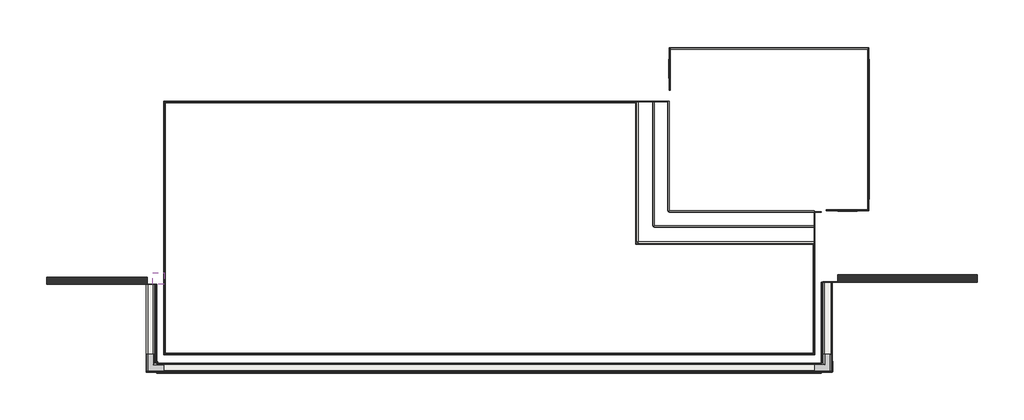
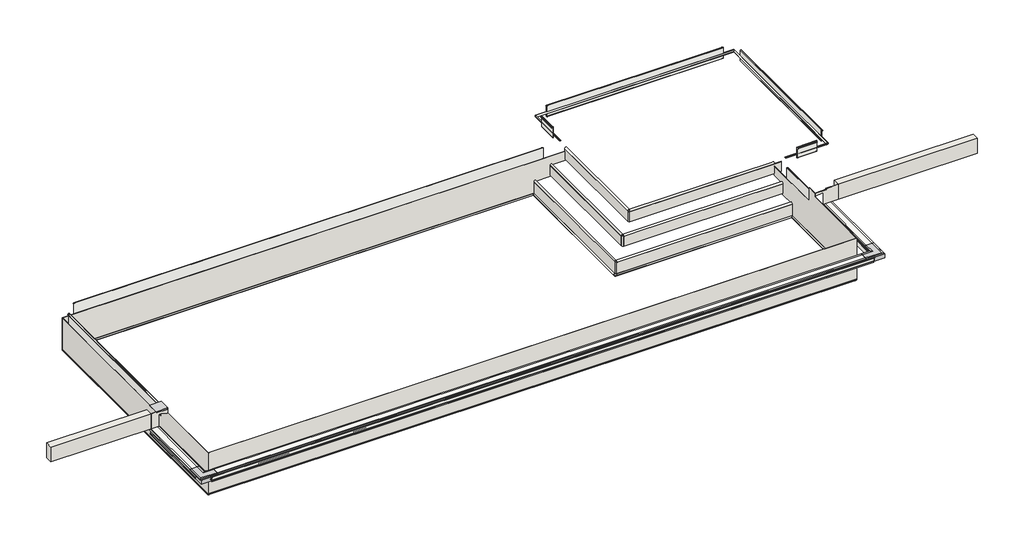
# One storey, incomplete: 32 slabs, 14 walls, 9 proxies.
"""IFC4 building model written with IfcOpenShell, lengths in millimetres."""

from ifc_helpers import new_model, si_unit, frame, origin, place, context, project, spatial, polyline, circle_curve, outline, extrude, faceted_brep, transform, mapped, element, save
from ifc_brep_helpers import plane_surface, revolved_surface, advanced_brep
from components import generic_models_2f38e3b8, generic_models_e9a23e22, generic_models_63c795dd, generic_models_075414a9, bloque_rs_943_f1732a4f, slab_9f0385e0, slab_61d0ff87, slab_1a5e02c1, slab_685f944a, slab_566f5eac, slab_abddf5fc, slab_00de984e, slab_c4abe388, slab_4bab5f5c, slab_e695d669, slab_d2b3e7c7, slab_6e807474, slab_6ea1b4a0, slab_d7a6919b, slab_5e99094c, slab_eb9e3eb8, slab_f8d4f0c7, slab_ee8387c9, slab_8ee4e33a, slab_2114b75f, slab_f5defd6c, slab_10a1814d, slab_2980076c, slab_45b15912, slab_8cf7b7cf, slab_d8ab2755, slab_4138cf42, slab_a32e0d3d, bloque_rs_941_dddf950f, bloque_rs_941_d63500ad, bloque_rs_941_eeaf1ed6

model = new_model("IFC4")

# Units and contexts
model_context = context("Model", 3, world=origin())
ifc_project = project(units=[si_unit("LENGTHUNIT", "METRE", prefix="MILLI")], contexts=[model_context])

# Site, building, storey
site = spatial("IfcSite", under=ifc_project)
building = spatial("IfcBuilding", under=site)
storey = spatial("IfcBuildingStorey", under=building, Name="3_NFondo1P1 -1.50", Elevation=-1500.0)

# Proxies
placement = place(None, origin())
generic_models_shape = generic_models_2f38e3b8(model_context)
element("IfcBuildingElementProxy", 1, Name="ROSA GRES_115 : Pieza 115_Tao_Beige_Liso", ObjectType="ROSA GRES_115 : Pieza 115_Tao_Beige_Liso", at=placement, inside=storey, context=model_context, shape_type="MappedRepresentation", body=[
    mapped(generic_models_shape, transform((15688.1007804, 14665.1035327, -680.0), x_axis=(0.0, -1.0, 0.0), y_axis=(1.0, 0.0, 0.0), z_axis=(0.0, 0.0, 1.0))),
])
element("IfcBuildingElementProxy", 2, Name="ROSA GRES_115 : Pieza 115_Tao_Beige_Liso", ObjectType="ROSA GRES_115 : Pieza 115_Tao_Beige_Liso", at=placement, inside=storey, context=model_context, shape_type="MappedRepresentation", body=[
    mapped(generic_models_shape, transform((15238.1007804, 14215.1035327, -1010.0), x_axis=(0.0, -1.0, 0.0), y_axis=(1.0, 0.0, 0.0), z_axis=(0.0, 0.0, 1.0))),
])
element("IfcBuildingElementProxy", 3, Name="ROSA GRES_115 : Pieza 115_Tao_Beige_Liso", ObjectType="ROSA GRES_115 : Pieza 115_Tao_Beige_Liso", at=placement, inside=storey, context=model_context, shape_type="MappedRepresentation", body=[
    mapped(generic_models_shape, transform((16103.1007804, 15080.1035327, -350.0), x_axis=(0.0, -1.0, 0.0), y_axis=(1.0, 0.0, 0.0), z_axis=(0.0, 0.0, 1.0))),
])
generic_models_2_shape = generic_models_e9a23e22(model_context)
element("IfcBuildingElementProxy", 4, Name="ROSA GRES_116 : Pieza 116_Tao_Beige_Liso", ObjectType="ROSA GRES_116 : Pieza 116_Tao_Beige_Liso", at=placement, inside=storey, context=model_context, shape_type="MappedRepresentation", body=[
    mapped(generic_models_2_shape, transform((15238.1007804, 14214.4871894, -1379.9734111), x_axis=(0.0, -1.0, 0.0), y_axis=(1.0, 0.0, 0.0), z_axis=(0.0, 0.0, 1.0))),
])
generic_models_3_shape = generic_models_63c795dd(model_context)
element("IfcBuildingElementProxy", 5, Name="ROSA GRES_ED6 (largo y profundidad) : Pieza ED6_Tao_Beige_Anti-Slip", ObjectType="ROSA GRES_ED6 (largo y profundidad) : Pieza ED6_Tao_Beige_Anti-Slip", at=placement, inside=storey, context=model_context, shape_type="MappedRepresentation", body=[
    mapped(generic_models_3_shape, transform((2118.6007804, 13037.6035327, 0.0), x_axis=(1.0, 0.0, 0.0), y_axis=(0.0, 1.0, 0.0), z_axis=(0.0, 0.0, 1.0))),
])
generic_models_4_shape = generic_models_075414a9(model_context)
element("IfcBuildingElementProxy", 6, Name="ROSA GRES_245 EC_Colocación en plano : Pieza 245 EC_Tao_Beige_Anti-Slip", ObjectType="ROSA GRES_245 EC_Colocación en plano : Pieza 245 EC_Tao_Beige_Anti-Slip", at=placement, inside=storey, context=model_context, shape_type="MappedRepresentation", body=[
    mapped(generic_models_4_shape, transform((1617.4586718, 10609.6035327, -475.0413492), x_axis=(-1.0, 0.0, 0.0), y_axis=(0.0, -1.0, 0.0), z_axis=(0.0, 0.0, 1.0))),
])
element("IfcBuildingElementProxy", 7, Name="ROSA GRES_245 EC_Colocación en plano : Pieza 245 EC_Tao_Beige_Anti-Slip", ObjectType="ROSA GRES_245 EC_Colocación en plano : Pieza 245 EC_Tao_Beige_Anti-Slip", at=placement, inside=storey, context=model_context, shape_type="MappedRepresentation", body=[
    mapped(generic_models_4_shape, transform((20603.6007804, 10609.6035327, -475.0413492), x_axis=(0.0, -1.0, 0.0), y_axis=(1.0, 0.0, 0.0), z_axis=(0.0, 0.0, 1.0))),
])
bloque_rs_943_shape = bloque_rs_943_f1732a4f(model_context)
element("IfcBuildingElementProxy", 8, Name="ROSA GRES_RS 943 : Bloque RS 943", ObjectType="ROSA GRES_RS 943 : Bloque RS 943", at=placement, inside=storey, context=model_context, shape_type="MappedRepresentation", body=[
    mapped(bloque_rs_943_shape, transform((20604.3277153, 10627.4762625, -605.0227526), x_axis=(0.0, -1.0, 0.0), y_axis=(1.0, 0.0, 0.0), z_axis=(0.0, 0.0, 1.0))),
])
element("IfcBuildingElementProxy", 9, Name="ROSA GRES_RS 943 : Bloque RS 943", ObjectType="ROSA GRES_RS 943 : Bloque RS 943", at=placement, inside=storey, context=model_context, shape_type="MappedRepresentation", body=[
    mapped(bloque_rs_943_shape, transform((1658.4971093, 10627.4762625, -605.0227526), x_axis=(-1.0, 0.0, 0.0), y_axis=(0.0, -1.0, 0.0), z_axis=(0.0, 0.0, 1.0))),
])

# Slabs
slab_shape = slab_9f0385e0(model_context)
element("IfcSlab", 10, ObjectType="ROSA GRES_J62 : Pieza J62_Tao_Beige_Anti-Slip", at=placement, inside=storey, context=model_context, shape_type="MappedRepresentation", body=[
    mapped(slab_shape, transform((2107.3061535, 17787.6035327, -101.4130427), x_axis=(0.0, -1.0, 0.0), y_axis=(0.0, 0.0, -1.0), z_axis=(1.0, 0.0, 0.0))),
])
slab_2_shape = slab_61d0ff87(model_context)
element("IfcSlab", 11, ObjectType="ROSA GRES_J62 : Pieza J62_Tao_Beige_Anti-Slip", at=placement, inside=storey, context=model_context, shape_type="MappedRepresentation", body=[
    mapped(slab_2_shape, transform((2427.4908747, 18105.8981596, -102.7970849), x_axis=(1.0, 0.0, 0.0), y_axis=(0.0, 0.0, 1.0), z_axis=(0.0, -1.0, 0.0))),
])
slab_3_shape = slab_1a5e02c1(model_context)
element("IfcSlab", 12, ObjectType="ROSA GRES_183 : Pieza 183_Tao_Beige_Liso", at=placement, inside=storey, context=model_context, shape_type="MappedRepresentation", body=[
    mapped(slab_3_shape, transform((15688.1007804, 18097.6035327, -680.0), x_axis=(0.0, -1.0, 0.0), y_axis=(1.0, 0.0, 0.0), z_axis=(0.0, 0.0, 1.0))),
])
slab_4_shape = slab_685f944a(model_context)
element("IfcSlab", 13, ObjectType="ROSA GRES_183 : Pieza 183_Tao_Beige_Liso", at=placement, inside=storey, context=model_context, shape_type="MappedRepresentation", body=[
    mapped(slab_4_shape, transform((20120.1007804, 14665.1035327, -680.0), x_axis=(-1.0, 0.0, 0.0), y_axis=(0.0, -1.0, 0.0), z_axis=(0.0, 0.0, 1.0))),
])
slab_5_shape = slab_566f5eac(model_context)
element("IfcSlab", 14, ObjectType="ROSA GRES_183 : Pieza 183_Tao_Beige_Liso", at=placement, inside=storey, context=model_context, shape_type="MappedRepresentation", body=[
    mapped(slab_5_shape, transform((20111.1007804, 14215.1035327, -1010.0), x_axis=(-1.0, 0.0, 0.0), y_axis=(0.0, -1.0, 0.0), z_axis=(0.0, 0.0, 1.0))),
])
slab_6_shape = slab_abddf5fc(model_context)
element("IfcSlab", 15, ObjectType="ROSA GRES_183 : Pieza 183_Tao_Beige_Liso", at=placement, inside=storey, context=model_context, shape_type="MappedRepresentation", body=[
    mapped(slab_6_shape, transform((15238.1007804, 18093.1035327, -1010.0), x_axis=(0.0, -1.0, 0.0), y_axis=(1.0, 0.0, 0.0), z_axis=(0.0, 0.0, 1.0))),
])
slab_7_shape = slab_00de984e(model_context)
element("IfcSlab", 16, ObjectType="ROSA GRES_183 : Pieza 183_Tao_Beige_Liso", at=placement, inside=storey, context=model_context, shape_type="MappedRepresentation", body=[
    mapped(slab_7_shape, transform((16103.1007804, 15080.1035327, -350.0), x_axis=(0.0, 0.0, -1.0), y_axis=(1.0, 0.0, 0.0), z_axis=(0.0, -1.0, 0.0))),
])
element("IfcSlab", 17, ObjectType="ROSA GRES_183 : Pieza 183_Tao_Beige_Liso", at=placement, inside=storey, context=model_context, shape_type="MappedRepresentation", body=[
    mapped(slab_7_shape, transform((15688.1007804, 14665.1035327, -680.0), x_axis=(0.0, 0.0, -1.0), y_axis=(1.0, 0.0, 0.0), z_axis=(0.0, -1.0, 0.0))),
])
slab_8_shape = slab_c4abe388(model_context)
element("IfcSlab", 18, ObjectType="ROSA GRES_188 : Pieza 188_Tao_Beige_Liso", at=placement, inside=storey, context=model_context, shape_type="MappedRepresentation", body=[
    mapped(slab_8_shape, transform((20111.1007804, 11092.1301213, -1379.9734114), x_axis=(-1.0, 0.0, 0.0), y_axis=(0.0, 0.0, 1.0), z_axis=(0.0, 1.0, 0.0))),
])
slab_9_shape = slab_4bab5f5c(model_context)
element("IfcSlab", 19, ObjectType="ROSA GRES_188 : Pieza 188_Tao_Beige_Liso", at=placement, inside=storey, context=model_context, shape_type="MappedRepresentation", body=[
    mapped(slab_9_shape, transform((2110.1273689, 11102.1035327, -1379.9734114), x_axis=(0.0, 1.0, 0.0), y_axis=(0.0, 0.0, 1.0), z_axis=(1.0, 0.0, 0.0))),
])
slab_10_shape = slab_e695d669(model_context)
element("IfcSlab", 20, ObjectType="ROSA GRES_188 : Pieza 188_Tao_Beige_Liso", at=placement, inside=storey, context=model_context, shape_type="MappedRepresentation", body=[
    mapped(slab_10_shape, transform((15238.1007804, 14185.0769441, -1379.9734114), x_axis=(1.0, 0.0, 0.0), y_axis=(0.0, 1.0, 0.0), z_axis=(0.0, 0.0, 1.0))),
])
slab_11_shape = slab_d2b3e7c7(model_context)
element("IfcSlab", 21, ObjectType="ROSA GRES_188 : Pieza 188_Tao_Beige_Liso", at=placement, inside=storey, context=model_context, shape_type="MappedRepresentation", body=[
    mapped(slab_11_shape, transform((20121.0741918, 14179.6035327, -1379.9734114), x_axis=(0.0, -1.0, 0.0), y_axis=(0.0, 0.0, 1.0), z_axis=(-1.0, 0.0, 0.0))),
])
slab_12_shape = slab_6e807474(model_context)
element("IfcSlab", 22, ObjectType="ROSA GRES_188 : Pieza 188_Tao_Beige_Liso", at=placement, inside=storey, context=model_context, shape_type="MappedRepresentation", body=[
    mapped(slab_12_shape, transform((2120.1007804, 18103.0769441, -1379.9734114), x_axis=(1.0, 0.0, 0.0), y_axis=(0.0, 0.0, 1.0), z_axis=(0.0, -1.0, 0.0))),
])
slab_13_shape = slab_6ea1b4a0(model_context)
element("IfcSlab", 23, ObjectType="ROSA GRES_188 : Pieza 188_Tao_Beige_Liso", at=placement, inside=storey, context=model_context, shape_type="MappedRepresentation", body=[
    mapped(slab_13_shape, transform((21615.6007804, 19589.5769441, -319.9734114), x_axis=(-1.0, 0.0, 0.0), y_axis=(0.0, 0.0, -1.0), z_axis=(0.0, -1.0, 0.0))),
])
slab_14_shape = slab_d7a6919b(model_context)
element("IfcSlab", 24, ObjectType="ROSA GRES_188 : Pieza 188_Tao_Beige_Liso", at=placement, inside=storey, context=model_context, shape_type="MappedRepresentation", body=[
    mapped(slab_14_shape, transform((21625.5741918, 15069.6035327, -319.9734114), x_axis=(0.0, 1.0, 0.0), y_axis=(0.0, 0.0, -1.0), z_axis=(-1.0, 0.0, 0.0))),
])
slab_15_shape = slab_5e99094c(model_context)
element("IfcSlab", 25, ObjectType="ROSA GRES_188 : Pieza 188_Tao_Beige_Liso", at=placement, inside=storey, context=model_context, shape_type="MappedRepresentation", body=[
    mapped(slab_15_shape, transform((16092.6273689, 19579.6035327, -319.9734114), x_axis=(0.0, -1.0, 0.0), y_axis=(0.0, 0.0, -1.0), z_axis=(1.0, 0.0, 0.0))),
])
slab_16_shape = slab_eb9e3eb8(model_context)
element("IfcSlab", 26, ObjectType="ROSA GRES_183 : Pieza 183_Tao_Beige_Liso", at=placement, inside=storey, context=model_context, shape_type="MappedRepresentation", body=[
    mapped(slab_16_shape, transform((16103.1007804, 15080.1035327, -350.0), x_axis=(1.0, 0.0, 0.0), y_axis=(0.0, 1.0, 0.0), z_axis=(0.0, 0.0, 1.0))),
])
slab_17_shape = slab_f8d4f0c7(model_context)
element("IfcSlab", 27, ObjectType="ROSA GRES_183 : Pieza 183_Tao_Beige_Liso", at=placement, inside=storey, context=model_context, shape_type="MappedRepresentation", body=[
    mapped(slab_17_shape, transform((16103.1007804, 15080.1035327, -350.0), x_axis=(0.0, 1.0, 0.0), y_axis=(-1.0, 0.0, 0.0), z_axis=(0.0, 0.0, 1.0))),
])
slab_18_shape = slab_ee8387c9(model_context)
element("IfcSlab", 28, ObjectType="ROSA GRES_188 : Pieza 188_Tao_Beige_Liso", at=placement, inside=storey, context=model_context, shape_type="MappedRepresentation", body=[
    mapped(slab_18_shape, transform((20445.6007804, 15069.6301213, -319.9734114), x_axis=(1.0, 0.0, 0.0), y_axis=(0.0, 1.0, 0.0), z_axis=(0.0, 0.0, 1.0))),
])
slab_19_shape = slab_8ee4e33a(model_context)
element("IfcSlab", 29, ObjectType="ROSA GRES_245 CM_Colocación en plano : Rejilla 245 CM_Tao_Beige_Anti-Slip", at=placement, inside=storey, context=model_context, shape_type="MappedRepresentation", body=[
    mapped(slab_19_shape, transform((20354.742889, 13097.6035327, -450.0), x_axis=(0.0, -1.0, 0.0), y_axis=(1.0, 0.0, 0.0), z_axis=(0.0, 0.0, 1.0))),
])
slab_20_shape = slab_2114b75f(model_context)
element("IfcSlab", 30, ObjectType="ROSA GRES_188 : Pieza 188_Tao_Beige_Liso", at=placement, inside=storey, context=model_context, shape_type="MappedRepresentation", body=[
    mapped(slab_20_shape, transform((15208.0741918, 14214.4871894, -1379.9734114), x_axis=(0.0, 1.0, 0.0), y_axis=(-1.0, 0.0, 0.0), z_axis=(0.0, 0.0, 1.0))),
])
slab_21_shape = slab_f5defd6c(model_context)
element("IfcSlab", 31, ObjectType="ROSA GRES_183 : Pieza 183_Tao_Beige_Liso", at=placement, inside=storey, context=model_context, shape_type="MappedRepresentation", body=[
    mapped(slab_21_shape, transform((15238.1007804, 14215.1035327, -1010.0), x_axis=(0.0, 0.0, -1.0), y_axis=(1.0, 0.0, 0.0), z_axis=(0.0, -1.0, 0.0))),
])
slab_22_shape = slab_10a1814d(model_context)
element("IfcSlab", 32, ObjectType="ROSA GRES_J62 : Pieza J62_Tao_Beige_Anti-Slip", at=placement, inside=storey, context=model_context, shape_type="MappedRepresentation", body=[
    mapped(slab_22_shape, transform((21628.3954073, 19274.1035327, -104.6201584), x_axis=(0.0, -1.0, 0.0), y_axis=(0.0, 0.0, 1.0), z_axis=(-1.0, 0.0, 0.0))),
])
slab_23_shape = slab_2980076c(model_context)
element("IfcSlab", 33, ObjectType="ROSA GRES_J62 : Pieza J62_Tao_Beige_Anti-Slip", at=placement, inside=storey, context=model_context, shape_type="MappedRepresentation", body=[
    mapped(slab_23_shape, transform((21307.1007804, 19592.3981596, -103.8505032), x_axis=(-1.0, 0.0, 0.0), y_axis=(0.0, 0.0, -1.0), z_axis=(0.0, -1.0, 0.0))),
])
slab_24_shape = slab_45b15912(model_context)
element("IfcSlab", 34, ObjectType="ROSA GRES_J62 : Pieza J62_Tao_Beige_Anti-Slip", at=placement, inside=storey, context=model_context, shape_type="MappedRepresentation", body=[
    mapped(slab_24_shape, transform((20123.8954073, 14436.2542528, -101.4130427), x_axis=(0.0, -1.0, 0.0), y_axis=(0.0, 0.0, 1.0), z_axis=(-1.0, 0.0, 0.0))),
])
slab_25_shape = slab_8cf7b7cf(model_context)
element("IfcSlab", 35, ObjectType="ROSA GRES_J62 : Pieza J62_Tao_Beige_Anti-Slip", at=placement, inside=storey, context=model_context, shape_type="MappedRepresentation", body=[
    mapped(slab_25_shape, transform((21305.0674707, 15066.8089058, -105.2191765), x_axis=(-1.0, 0.0, 0.0), y_axis=(0.0, 0.0, 1.0), z_axis=(0.0, 1.0, 0.0))),
])
slab_26_shape = slab_d8ab2755(model_context)
element("IfcSlab", 36, ObjectType="ROSA GRES_J62 : Pieza J62_Tao_Beige_Anti-Slip", at=placement, inside=storey, context=model_context, shape_type="MappedRepresentation", body=[
    mapped(slab_26_shape, transform((16089.8061535, 18739.1035327, -104.8422944), x_axis=(0.0, 1.0, 0.0), y_axis=(0.0, 0.0, 1.0), z_axis=(1.0, 0.0, 0.0))),
])
slab_27_shape = slab_4138cf42(model_context)
element("IfcSlab", 37, ObjectType="ROSA GRES_245 CM_Colocación en plano : Rejilla 245 CM_Tao_Beige_Anti-Slip", at=placement, inside=storey, context=model_context, shape_type="MappedRepresentation", body=[
    mapped(slab_27_shape, transform((20107.4586718, 10858.4614241, -450.0), x_axis=(-1.0, 0.0, 0.0), y_axis=(0.0, -1.0, 0.0), z_axis=(0.0, 0.0, 1.0))),
])
slab_28_shape = slab_a32e0d3d(model_context)
element("IfcSlab", 38, ObjectType="ROSA GRES_245 CM_Colocación en plano : Rejilla 245 CM_Tao_Beige_Anti-Slip", at=placement, inside=storey, context=model_context, shape_type="MappedRepresentation", body=[
    mapped(slab_28_shape, transform((1867.4586718, 13036.8535327, -450.0), x_axis=(0.0, -1.0, 0.0), y_axis=(1.0, 0.0, 0.0), z_axis=(0.0, 0.0, 1.0))),
])
bloque_rs_941_shape = bloque_rs_941_dddf950f(model_context)
element("IfcSlab", 39, ObjectType="ROSA GRES_RS 941 : Bloque_RS 941", at=placement, inside=storey, context=model_context, shape_type="MappedRepresentation", body=[
    mapped(bloque_rs_941_shape, transform((1618.4971093, 10880.0799336, -605.0227526), x_axis=(0.0, 1.0, 0.0), y_axis=(-1.0, 0.0, 0.0), z_axis=(0.0, 0.0, 1.0))),
])
bloque_rs_941_2_shape = bloque_rs_941_d63500ad(model_context)
element("IfcSlab", 40, ObjectType="ROSA GRES_RS 941 : Bloque_RS 941", at=placement, inside=storey, context=model_context, shape_type="MappedRepresentation", body=[
    mapped(bloque_rs_941_2_shape, transform((20604.3277153, 13100.0799336, -605.0227526), x_axis=(0.0, -1.0, 0.0), y_axis=(1.0, 0.0, 0.0), z_axis=(0.0, 0.0, 1.0))),
])
bloque_rs_941_3_shape = bloque_rs_941_eeaf1ed6(model_context)
element("IfcSlab", 41, ObjectType="ROSA GRES_RS 941 : Bloque_RS 941", at=placement, inside=storey, context=model_context, shape_type="MappedRepresentation", body=[
    mapped(bloque_rs_941_3_shape, transform((20299.3277153, 10562.4762625, -605.0227526), x_axis=(-1.0, 0.0, 0.0), y_axis=(0.0, -1.0, 0.0), z_axis=(0.0, 0.0, 1.0))),
])

# Walls
element("IfcWall", 42, ObjectType="Pieza 316_Patrón 1/3_Tao_Beige_Liso", at=placement, inside=storey, context=model_context, shape_type="Brep", body=[
    faceted_brep([(15207.1007804, 18102.1035327, -1339.9734114), (2111.1007804, 18102.1035327, -1339.9734114), (2111.1007804, 18102.1035327, -418.4130427), (16063.1007804, 18102.1035327, -418.4130427), (16063.1007804, 18102.1035327, -640.0), (16063.1007804, 18102.1035327, -680.0), (15657.1007804, 18102.1035327, -680.0), (15648.1007804, 18102.1035327, -680.0), (15648.1007804, 18102.1035327, -970.0), (15648.1007804, 18102.1035327, -1010.0), (15207.1007804, 18102.1035327, -1010.0), (15207.1007804, 18093.1035327, -1339.9734114), (15207.1007804, 18093.1035327, -1010.0), (15648.1007804, 18093.1035327, -1010.0), (15648.1007804, 18093.1035327, -680.0), (16063.1007804, 18093.1035327, -680.0), (16063.1007804, 18093.1035327, -418.4130427), (2120.1007804, 18093.1035327, -418.4130427), (2111.1007804, 18093.1035327, -418.4130427), (2111.1007804, 18093.1035327, -1339.9734114), (2120.1007804, 18093.1035327, -1339.9734114), (15198.1007804, 18093.1035327, -1339.9734114)], [[[0, 1, 2, 3, 4, 5, 6, 7, 8, 9, 10]], [[11, 12, 13, 14, 15, 16, 17, 18, 19, 20, 21]], [[2, 1, 19, 18]], [[1, 0, 11, 21, 20, 19]], [[3, 2, 18, 17, 16]], [[7, 6, 5, 15, 14]], [[10, 9, 13, 12]], [[0, 10, 12, 11]], [[9, 8, 7, 14, 13]], [[5, 4, 3, 16, 15]]]),
])
element("IfcWall", 43, ObjectType="Pieza 316_Patrón 1/3_Tao_Beige_Liso", at=placement, inside=storey, context=model_context, shape_type="Brep", body=[
    faceted_brep([(2111.1007804, 18093.1035327, -1339.9734114), (2111.1007804, 11093.1035327, -1339.9734114), (2111.1007804, 11093.1035327, -145.0), (2111.1007804, 13036.8535327, -145.0), (2111.1007804, 13045.8535327, -145.0), (2111.1007804, 13045.8535327, -37.0), (2111.1007804, 13368.1781338, -37.0), (2111.1007804, 13368.1781338, -418.4130427), (2111.1007804, 18093.1035327, -418.4130427), (2120.1007804, 18093.1035327, -1339.9734114), (2120.1007804, 18093.1035327, -418.4130427), (2120.1007804, 13368.1781338, -418.4130427), (2120.1007804, 13368.1781338, -37.0), (2120.1007804, 13045.8535327, -37.0), (2120.1007804, 13045.8535327, -145.0), (2120.1007804, 13036.8535327, -145.0), (2120.1007804, 11102.1035327, -145.0), (2120.1007804, 11093.1035327, -145.0), (2120.1007804, 11093.1035327, -1339.9734114), (2120.1007804, 11102.1035327, -1339.9734114)], [[[0, 1, 2, 3, 4, 5, 6, 7, 8]], [[9, 10, 11, 12, 13, 14, 15, 16, 17, 18, 19]], [[0, 8, 10, 9]], [[2, 1, 18, 17]], [[1, 0, 9, 19, 18]], [[8, 7, 11, 10]], [[6, 5, 13, 12]], [[7, 6, 12, 11]], [[4, 3, 2, 17, 16, 15, 14]], [[5, 4, 14, 13]]]),
])
element("IfcWall", 44, ObjectType="Pieza 316_Patrón 1/3_Tao_Beige_Liso", at=placement, inside=storey, context=model_context, shape_type="Brep", body=[
    faceted_brep([(2120.1007804, 11093.1035327, -1339.9734114), (20120.1007804, 11093.1035327, -1339.9734114), (20120.1007804, 11093.1035327, -145.0), (2120.1007804, 11093.1035327, -145.0), (2120.1007804, 11102.1035327, -1339.9734114), (2120.1007804, 11102.1035327, -145.0), (20111.1007804, 11102.1035327, -145.0), (20120.1007804, 11102.1035327, -145.0), (20120.1007804, 11102.1035327, -1339.9734114), (20111.1007804, 11102.1035327, -1339.9734114)], [[[0, 1, 2, 3]], [[4, 5, 6, 7, 8, 9]], [[0, 3, 5, 4]], [[2, 1, 8, 7]], [[1, 0, 4, 9, 8]], [[3, 2, 7, 6, 5]]]),
])
element("IfcWall", 45, ObjectType="Pieza 316_Patrón 1/3_Tao_Beige_Liso", at=placement, inside=storey, context=model_context, shape_type="Brep", body=[
    faceted_brep([(20120.1007804, 11102.1035327, -1339.9734114), (20120.1007804, 14184.1035327, -1339.9734114), (20120.1007804, 14184.1035327, -1010.0), (20120.1007804, 14625.1035327, -1010.0), (20120.1007804, 14625.1035327, -970.0), (20120.1007804, 14625.1035327, -680.0), (20120.1007804, 14634.1035327, -680.0), (20120.1007804, 15040.1035327, -680.0), (20120.1007804, 15040.1035327, -418.4130427), (20120.1007804, 13354.5919899, -418.4130427), (20120.1007804, 13354.5919899, -35.0), (20120.1007804, 13097.6035327, -35.0), (20120.1007804, 13097.6035327, -38.75), (20120.1007804, 13097.6035327, -121.7911752), (20120.1007804, 13097.6035327, -145.0), (20120.1007804, 11102.1035327, -145.0), (20111.1007804, 11102.1035327, -1339.9734114), (20111.1007804, 11102.1035327, -145.0), (20111.1007804, 13097.6035327, -145.0), (20111.1007804, 13097.6035327, -35.0), (20111.1007804, 13354.5919899, -35.0), (20111.1007804, 13354.5919899, -418.4130427), (20111.1007804, 15040.1035327, -418.4130427), (20111.1007804, 15040.1035327, -680.0), (20111.1007804, 14625.1035327, -680.0), (20111.1007804, 14625.1035327, -1010.0), (20111.1007804, 14184.1035327, -1010.0), (20111.1007804, 14184.1035327, -1339.9734114)], [[[0, 1, 2, 3, 4, 5, 6, 7, 8, 9, 10, 11, 12, 13, 14, 15]], [[16, 17, 18, 19, 20, 21, 22, 23, 24, 25, 26, 27]], [[0, 15, 17, 16]], [[1, 0, 16, 27]], [[9, 8, 22, 21]], [[3, 2, 26, 25]], [[7, 6, 5, 24, 23]], [[2, 1, 27, 26]], [[5, 4, 3, 25, 24]], [[8, 7, 23, 22]], [[10, 9, 21, 20]], [[15, 14, 18, 17]], [[11, 10, 20, 19]], [[14, 13, 12, 11, 19, 18]]]),
])
element("IfcWall", 46, ObjectType="Pieza 316_Patrón 1/3_Tao_Beige_Liso", at=placement, inside=storey, context=model_context, shape_type="Brep", body=[
    faceted_brep([(16063.1007804, 15080.1035327, -350.0), (16063.1007804, 18102.1035327, -350.0), (16063.1007804, 18102.1035327, -418.4130427), (16063.1007804, 18102.1035327, -640.0), (16063.1007804, 15080.1035327, -640.0), (16072.1007804, 15080.1035327, -350.0), (16072.1007804, 15080.1035327, -640.0), (16072.1007804, 18102.1035327, -640.0), (16072.1007804, 18102.1035327, -350.0)], [[[0, 1, 2, 3, 4]], [[5, 6, 7, 8]], [[0, 4, 6, 5]], [[1, 0, 5, 8]], [[4, 3, 7, 6]], [[3, 2, 1, 8, 7]]]),
])
element("IfcWall", 47, ObjectType="Pieza 316_Patrón 1/3_Tao_Beige_Liso", at=placement, inside=storey, context=model_context, shape_type="SweptSolid", body=[
    extrude(outline(polyline([(20302.6007804, 15040.1035327), (16103.1007804, 15040.1035327), (16103.1007804, 15049.1035327), (20302.6007804, 15049.1035327), (20302.6007804, 15040.1035327)])), frame((0.0, 0.0, -640.0), z_axis=(0.0, 0.0, 1.0), x_axis=(1.0, 0.0, 0.0)), (0.0, 0.0, 1.0), 290.0),
])
element("IfcWall", 48, ObjectType="Pieza 316_Patrón 1/3_Tao_Beige_Liso", at=placement, inside=storey, context=model_context, shape_type="SweptSolid", body=[
    extrude(outline(polyline([(15198.1007804, 14215.1035327), (15198.1007804, 18093.1035327), (15207.1007804, 18093.1035327), (15207.1007804, 14215.1035327), (15198.1007804, 14215.1035327)])), frame((0.0, 0.0, -1339.9734114), z_axis=(0.0, 0.0, 1.0), x_axis=(1.0, 0.0, 0.0)), (0.0, 0.0, 1.0), 330.0),
])
element("IfcWall", 49, ObjectType="Pieza 316_Patrón 1/3_Tao_Beige_Liso", at=placement, inside=storey, context=model_context, shape_type="Brep", body=[
    faceted_brep([(15648.1007804, 18102.1035327, -970.0), (15648.1007804, 14665.1035327, -970.0), (15648.1007804, 14665.1035327, -680.0), (15648.1007804, 18093.1035327, -680.0), (15648.1007804, 18102.1035327, -680.0), (15657.1007804, 18102.1035327, -970.0), (15657.1007804, 18102.1035327, -680.0), (15657.1007804, 14665.1035327, -680.0), (15657.1007804, 14665.1035327, -970.0)], [[[0, 1, 2, 3, 4]], [[5, 6, 7, 8]], [[0, 4, 6, 5]], [[1, 0, 5, 8]], [[2, 1, 8, 7]], [[4, 3, 2, 7, 6]]]),
])
element("IfcWall", 50, ObjectType="Pieza 316_Patrón 1/3_Tao_Beige_Liso", at=placement, inside=storey, context=model_context, shape_type="Brep", body=[
    faceted_brep([(20111.1007804, 14184.1035327, -1370.0), (15238.1007804, 14184.1035327, -1370.0), (15238.1007804, 14184.1035327, -1010.0), (20111.1007804, 14184.1035327, -1010.0), (20111.1007804, 14184.1035327, -1339.9734114), (20111.1007804, 14175.1035327, -1370.0), (20111.1007804, 14175.1035327, -1010.0), (15238.1007804, 14175.1035327, -1010.0), (15238.1007804, 14175.1035327, -1370.0)], [[[0, 1, 2, 3, 4]], [[5, 6, 7, 8]], [[0, 4, 3, 6, 5]], [[1, 0, 5, 8]], [[2, 1, 8, 7]], [[3, 2, 7, 6]]]),
])
element("IfcWall", 51, ObjectType="Pieza 316_Patrón 1/3_Tao_Beige_Liso", at=placement, inside=storey, context=model_context, shape_type="Brep", body=[
    faceted_brep([(20120.1007804, 14634.1035327, -970.0), (15688.1007804, 14634.1035327, -970.0), (15688.1007804, 14634.1035327, -680.0), (20120.1007804, 14634.1035327, -680.0), (20120.1007804, 14625.1035327, -970.0), (20120.1007804, 14625.1035327, -680.0), (20111.1007804, 14625.1035327, -680.0), (15688.1007804, 14625.1035327, -680.0), (15688.1007804, 14625.1035327, -970.0)], [[[0, 1, 2, 3]], [[4, 5, 6, 7, 8]], [[0, 3, 5, 4]], [[1, 0, 4, 8]], [[2, 1, 8, 7]], [[3, 2, 7, 6, 5]]]),
])
element("IfcWall", 52, ObjectType="GENÉRICO_MURO BASE 20 cm", at=placement, inside=storey, context=model_context, shape_type="Brep", body=[
    faceted_brep([(1652.9482621, 13236.8535327, -9.0), (1652.9482621, 13236.8535327, -445.0), (-1135.0413282, 13236.8535327, -445.0), (-1135.0413282, 13236.8535327, -9.0), (1652.9482621, 13036.8535327, -445.0), (1652.9482621, 13036.8535327, -9.0), (-1135.0413282, 13036.8535327, -9.0), (-1135.0413282, 13036.8535327, -445.0), (1652.9482621, 13045.8535327, -9.0)], [[[0, 1, 2, 3]], [[4, 5, 6, 7]], [[2, 1, 4, 7]], [[3, 2, 7, 6]], [[0, 3, 6, 5, 8]], [[0, 8, 5, 4, 1]]]),
])
element("IfcWall", 53, ObjectType="GENÉRICO_MURO BASE 20 cm", at=placement, inside=storey, context=model_context, shape_type="Brep", body=[
    faceted_brep([(24628.3954073, 13297.6035327, -445.0), (20768.3954073, 13297.6035327, -445.0), (20768.3954073, 13297.6035327, -9.0), (24628.3954073, 13297.6035327, -9.0), (24628.3954073, 13097.6035327, -445.0), (24628.3954073, 13097.6035327, -9.0), (20768.3954073, 13097.6035327, -9.0), (20768.3954073, 13097.6035327, -445.0), (20768.3954073, 13106.6035327, -445.0), (20768.3954073, 13106.6035327, -9.0)], [[[0, 1, 2, 3]], [[4, 5, 6, 7]], [[1, 0, 4, 7, 8]], [[2, 1, 8, 7, 6, 9]], [[3, 2, 9, 6, 5]], [[0, 3, 5, 4]]]),
])
element("IfcWall", 54, ObjectType="Pieza 316_Patrón 1/3_Tao_Beige_Liso", at=placement, inside=storey, context=model_context, shape_type="AdvancedBrep", body=[
    advanced_brep(
    [(20768.3954073, 13106.6035327, -445.0), (20349.742889, 13106.6035327, -445.0), (20349.742889, 13106.6035327, -104.1447771), (20305.5354188, 13106.6035327, -103.7082009), (20151.6681109, 13106.6035327, -116.9962889), (20120.1007804, 13106.6035327, -121.7911752), (20120.1007804, 13106.6035327, -38.75), (20428.1007804, 13106.6035327, -38.75), (20428.1007804, 13106.6035327, -9.0), (20768.3954073, 13106.6035327, -9.0), (20768.3954073, 13097.6035327, -445.0), (20768.3954073, 13097.6035327, -9.0), (20428.1007804, 13097.6035327, -9.0), (20428.1007804, 13097.6035327, -38.75), (20120.1007804, 13097.6035327, -38.75), (20120.1007804, 13097.6035327, -121.7911752), (20151.6681109, 13097.6035327, -116.9962889), (20305.5354188, 13097.6035327, -103.7082009), (20349.742889, 13097.6035327, -104.1447771), (20349.742889, 13097.6035327, -123.5543053), (20349.742889, 13097.6035327, -445.0)],
    [
        (0, 1),
        (1, 2),
        (2, 3, circle_curve(frame((20320.5211725, 13106.6035327, -824.689476), z_axis=(0.0, -1.0, 0.0), x_axis=(1.0, 0.0, 0.0)), 721.1369993)),
        (3, 4),
        (4, 5, circle_curve(frame((20243.960467, 13106.6035327, -830.9166532), z_axis=(0.0, -1.0, 0.0), x_axis=(1.0, 0.0, 0.0)), 719.8612127)),
        (5, 6),
        (6, 7),
        (7, 8),
        (8, 9),
        (9, 0),
        (10, 11),
        (11, 12),
        (12, 13),
        (13, 14),
        (14, 15),
        (15, 16, circle_curve(frame((20243.960467, 13097.6035327, -830.9166532), z_axis=(0.0, 1.0, 0.0), x_axis=(1.0, 0.0, 0.0)), 719.8612127)),
        (16, 17),
        (17, 18, circle_curve(frame((20320.5211725, 13097.6035327, -824.689476), z_axis=(0.0, 1.0, 0.0), x_axis=(1.0, 0.0, 0.0)), 721.1369993)),
        (18, 19),
        (19, 20),
        (20, 10),
        (0, 10),
        (20, 1),
        (6, 14),
        (13, 7),
        (9, 11),
        (2, 18),
        (17, 3),
        (16, 4),
        (15, 5),
        (12, 8),
    ],
    [
        plane_surface(frame((24628.3954073, 13106.6035327, -445.0), z_axis=(0.0, 1.0, 0.0), x_axis=(-1.0, 0.0, 0.0))),
        plane_surface(frame((24628.3954073, 13097.6035327, -445.0), z_axis=(0.0, -1.0, 0.0), x_axis=(1.0, 0.0, 0.0))),
        plane_surface(frame((20768.3954073, 13106.6035327, -445.0), z_axis=(0.0, 0.0, -1.0), x_axis=(0.0, -1.0, 0.0))),
        plane_surface(frame((20120.1007804, 13106.6035327, -38.75), z_axis=(0.0, 0.0, 1.0), x_axis=(0.0, -1.0, 0.0))),
        plane_surface(frame((20768.3954073, 13106.6035327, -9.0), z_axis=(1.0, 0.0, 0.0), x_axis=(0.0, -1.0, 0.0))),
        revolved_surface(polyline([(21041.6581718, 13097.6035327, -824.689476), (21041.6581718, 13106.6035327, -824.689476)]), (20320.5211725, 13097.6035327, -824.689476), (0.0, -1.0, 0.0)),
        plane_surface(frame((20305.5354188, 13106.6035327, -103.7082009), z_axis=(0.08604044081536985, 0.0, -0.9962916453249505), x_axis=(0.0, -1.0, 0.0))),
        revolved_surface(polyline([(20963.821679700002, 13097.6035327, -830.9166532), (20963.821679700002, 13106.6035327, -830.9166532)]), (20243.960467, 13097.6035327, -830.9166532), (0.0, -1.0, 0.0)),
        plane_surface(frame((20120.1007804, 13106.6035327, -121.7911752), z_axis=(-1.0, 0.0, 0.0), x_axis=(0.0, -1.0, 0.0))),
        plane_surface(frame((20428.1007804, 13106.6035327, -38.75), z_axis=(-1.0, 0.0, 0.0), x_axis=(0.0, -1.0, 0.0))),
        plane_surface(frame((20428.1007804, 13106.6035327, -9.0), z_axis=(0.0, 0.0, 1.0), x_axis=(0.0, -1.0, 0.0))),
        plane_surface(frame((20349.742889, 13102.1035327, -476.49072), z_axis=(-1.0, 0.0, 0.0), x_axis=(0.0, -1.0, 0.0))),
    ],
    [
        (0, [[1, 2, 3, 4, 5, 6, 7, 8, 9, 10]]),
        (1, [[11, 12, 13, 14, 15, 16, 17, 18, 19, 20, 21]]),
        (2, [[-1, 22, -21, 23]]),
        (3, [[-7, 24, -14, 25]]),
        (4, [[-10, 26, -11, -22]]),
        (5, [[-3, 27, -18, 28]]),
        (6, [[-4, -28, -17, 29]]),
        (7, [[-5, -29, -16, 30]]),
        (8, [[-6, -30, -15, -24]]),
        (9, [[-8, -25, -13, 31]]),
        (10, [[-9, -31, -12, -26]]),
        (11, [[-2, -23, -20, -19, -27]]),
    ],
),
])
element("IfcWall", 55, ObjectType="Pieza 316_Patrón 1/3_Tao_Beige_Liso", at=placement, inside=storey, context=model_context, shape_type="AdvancedBrep", body=[
    advanced_brep(
    [(1652.9482621, 13045.8535327, -449.9772822), (1652.9482621, 13045.8535327, -9.0), (1803.6007804, 13045.8535327, -9.0), (1803.6007804, 13045.8535327, -34.8051785), (2120.1007804, 13045.8535327, -34.8051785), (2120.1007804, 13045.8535327, -37.0), (2120.1007804, 13045.8535327, -145.0), (2111.1007804, 13045.8535327, -145.0), (2111.1007804, 13045.8535327, -148.9206758), (2068.773152, 13045.8535327, -141.716043), (1913.6661419, 13045.8535327, -103.2659149), (1878.0979354, 13045.8535327, -103.4038989), (1869.4586718, 13045.8535327, -124.7942802), (1869.4586718, 13045.8535327, -449.9772822), (1652.9482621, 13036.8535327, -449.9772822), (1869.4586718, 13036.8535327, -449.9772822), (1869.4586718, 13036.8535327, -124.7942802), (1878.0979354, 13036.8535327, -103.4038989), (1913.6661419, 13036.8535327, -103.2659149), (2068.773152, 13036.8535327, -141.716043), (2111.1007804, 13036.8535327, -148.9206758), (2111.1007804, 13036.8535327, -145.0), (2120.1007804, 13036.8535327, -145.0), (2120.1007804, 13036.8535327, -34.8051785), (1803.6007804, 13036.8535327, -34.8051785), (1803.6007804, 13036.8535327, -9.0), (1652.9482621, 13036.8535327, -9.0), (1652.9482621, 13036.8535327, -445.0)],
    [
        (0, 1),
        (1, 2),
        (2, 3),
        (3, 4),
        (4, 5),
        (5, 6),
        (6, 7),
        (7, 8),
        (8, 9, circle_curve(frame((1968.9807958, 13045.8535327, -855.9427552), z_axis=(0.0, -1.0, 0.0), x_axis=(1.0, 0.0, 0.0)), 721.1645518)),
        (9, 10),
        (10, 11, circle_curve(frame((1898.6803882, 13045.8535327, -824.6667582), z_axis=(0.0, -1.0, 0.0), x_axis=(1.0, 0.0, 0.0)), 721.556477)),
        (11, 12),
        (12, 13),
        (13, 0),
        (14, 15),
        (15, 16),
        (16, 17),
        (17, 18, circle_curve(frame((1898.6803882, 13036.8535327, -824.6667582), z_axis=(0.0, 1.0, 0.0), x_axis=(1.0, 0.0, 0.0)), 721.556477)),
        (18, 19),
        (19, 20, circle_curve(frame((1968.9807958, 13036.8535327, -855.9427552), z_axis=(0.0, 1.0, 0.0), x_axis=(1.0, 0.0, 0.0)), 721.1645518)),
        (20, 21),
        (21, 22),
        (22, 23),
        (23, 24),
        (24, 25),
        (25, 26),
        (26, 27),
        (27, 14),
        (13, 15),
        (14, 0),
        (3, 24),
        (23, 4),
        (26, 1),
        (8, 20),
        (19, 9),
        (18, 10),
        (17, 11),
        (16, 12),
        (6, 22),
        (21, 7),
        (25, 2),
    ],
    [
        plane_surface(frame((1652.9482621, 13045.8535327, -449.9772822), z_axis=(0.0, 1.0, 0.0), x_axis=(0.0, 0.0, 1.0))),
        plane_surface(frame((1652.9482621, 13036.8535327, -449.9772822), z_axis=(0.0, -1.0, 0.0), x_axis=(0.0, 0.0, -1.0))),
        plane_surface(frame((1869.4586718, 13045.8535327, -449.9772822), z_axis=(0.0, 0.0, -1.0), x_axis=(0.0, -1.0, 0.0))),
        plane_surface(frame((1803.6007804, 13045.8535327, -34.8051785), z_axis=(0.0, 0.0, 1.0), x_axis=(0.0, -1.0, 0.0))),
        plane_surface(frame((1652.9482621, 13045.8535327, -449.9772822), z_axis=(-1.0, 0.0, 0.0), x_axis=(0.0, -1.0, 0.0))),
        revolved_surface(polyline([(2690.1453475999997, 13036.8535327, -855.9427552), (2690.1453475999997, 13045.8535327, -855.9427552)]), (1968.9807958, 13036.8535327, -855.9427552), (0.0, -1.0, 0.0)),
        plane_surface(frame((2068.773152, 13045.8535327, -141.716043), z_axis=(-0.2406114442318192, 0.0, -0.9706215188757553), x_axis=(0.0, -1.0, 0.0))),
        revolved_surface(polyline([(2620.2368652, 13036.8535327, -824.6667582), (2620.2368652, 13045.8535327, -824.6667582)]), (1898.6803882, 13036.8535327, -824.6667582), (0.0, -1.0, 0.0)),
        plane_surface(frame((1878.0979354, 13045.8535327, -103.4038989), z_axis=(0.927229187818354, 0.0, -0.3744943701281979), x_axis=(0.0, -1.0, 0.0))),
        plane_surface(frame((1869.4586718, 13045.8535327, -124.7942802), z_axis=(1.0, 0.0, 0.0), x_axis=(0.0, -1.0, 0.0))),
        plane_surface(frame((2115.6007804, 13045.8535327, -145.0), z_axis=(0.0, 0.0, -1.0), x_axis=(1.0, 0.0, 0.0))),
        plane_surface(frame((2111.1007804, 18097.6035327, -1339.9734114), z_axis=(1.0, 0.0, 0.0), x_axis=(0.0, -1.0, 0.0))),
        plane_surface(frame((2120.1007804, 18097.6035327, -1339.9734114), z_axis=(1.0, 0.0, 0.0), x_axis=(0.0, 1.0, 0.0))),
        plane_surface(frame((1652.9482621, 13045.8535327, -9.0), z_axis=(0.0, 0.0, 1.0), x_axis=(0.0, -1.0, 0.0))),
        plane_surface(frame((1803.6007804, 13045.8535327, -9.0), z_axis=(1.0, 0.0, 0.0), x_axis=(0.0, -1.0, 0.0))),
    ],
    [
        (0, [[1, 2, 3, 4, 5, 6, 7, 8, 9, 10, 11, 12, 13, 14]]),
        (1, [[15, 16, 17, 18, 19, 20, 21, 22, 23, 24, 25, 26, 27, 28]]),
        (2, [[-14, 29, -15, 30]]),
        (3, [[-4, 31, -24, 32]]),
        (4, [[-1, -30, -28, -27, 33]]),
        (5, [[-9, 34, -20, 35]]),
        (6, [[-10, -35, -19, 36]]),
        (7, [[-11, -36, -18, 37]]),
        (8, [[-12, -37, -17, 38]]),
        (9, [[-13, -38, -16, -29]]),
        (10, [[39, -22, 40, -7]]),
        (11, [[-8, -40, -21, -34]]),
        (12, [[-6, -5, -32, -23, -39]]),
        (13, [[-2, -33, -26, 41]]),
        (14, [[-3, -41, -25, -31]]),
    ],
),
])

save(model, "model.ifc")
